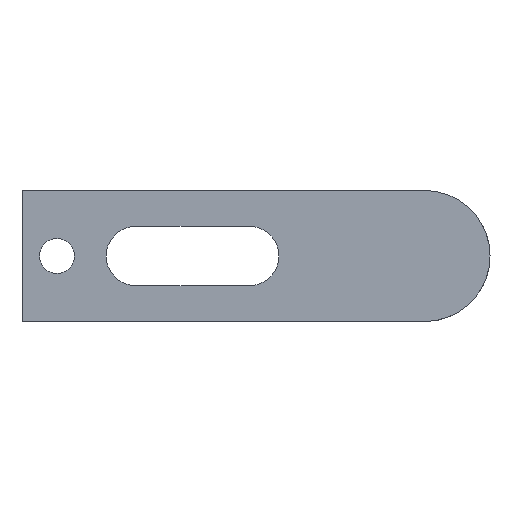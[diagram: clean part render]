
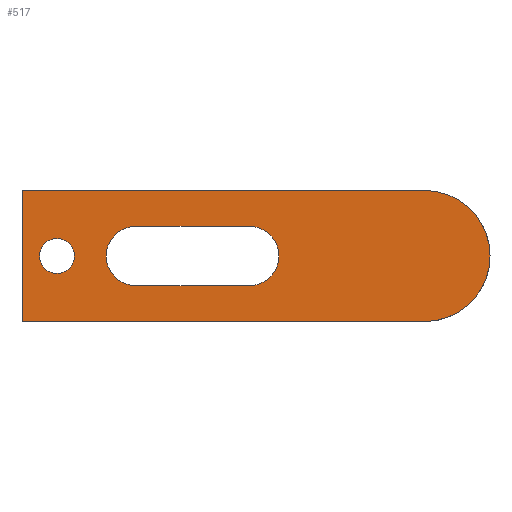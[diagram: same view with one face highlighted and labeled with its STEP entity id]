
A CAD part, front view. The second image highlights one B-rep face of the part: STEP entity #517.
In plain terms, the highlighted planar face has unit normal (0, -1, 0).
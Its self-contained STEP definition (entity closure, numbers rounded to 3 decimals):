
#290=CARTESIAN_POINT('Vertex',(-15.,0.,15.)) ;
#293=CARTESIAN_POINT('Axis2P3D Location',(-15.,0.,0.)) ;
#297=CARTESIAN_POINT('Vertex',(-15.,0.,-15.)) ;
#399=CARTESIAN_POINT('Line Origine',(-61.,0.,15.)) ;
#403=CARTESIAN_POINT('Vertex',(-107.,0.,15.)) ;
#426=CARTESIAN_POINT('Axis2P3D Location',(-107.,0.,15.)) ;
#431=CARTESIAN_POINT('Line Origine',(-61.,0.,-15.)) ;
#435=CARTESIAN_POINT('Vertex',(-107.,0.,-15.)) ;
#438=CARTESIAN_POINT('Line Origine',(-107.,0.,0.)) ;
#449=CARTESIAN_POINT('Axis2P3D Location',(-99.,0.,0.)) ;
#453=CARTESIAN_POINT('Vertex',(-95.,0.,0.)) ;
#455=CARTESIAN_POINT('Vertex',(-99.,0.,-4.)) ;
#458=CARTESIAN_POINT('Axis2P3D Location',(-99.,0.,0.)) ;
#462=CARTESIAN_POINT('Vertex',(-103.,0.,0.)) ;
#465=CARTESIAN_POINT('Axis2P3D Location',(-99.,0.,0.)) ;
#469=CARTESIAN_POINT('Vertex',(-99.,0.,4.)) ;
#472=CARTESIAN_POINT('Axis2P3D Location',(-99.,0.,0.)) ;
#483=CARTESIAN_POINT('Line Origine',(-68.,0.,-6.75)) ;
#487=CARTESIAN_POINT('Vertex',(-55.,0.,-6.75)) ;
#489=CARTESIAN_POINT('Vertex',(-81.,0.,-6.75)) ;
#492=CARTESIAN_POINT('Axis2P3D Location',(-81.,0.,0.)) ;
#496=CARTESIAN_POINT('Vertex',(-81.,0.,6.75)) ;
#499=CARTESIAN_POINT('Line Origine',(-68.,0.,6.75)) ;
#503=CARTESIAN_POINT('Vertex',(-55.,0.,6.75)) ;
#506=CARTESIAN_POINT('Axis2P3D Location',(-55.,0.,0.)) ;
#294=DIRECTION('Axis2P3D Direction',(0.,1.,0.)) ;
#400=DIRECTION('Vector Direction',(1.,0.,0.)) ;
#427=DIRECTION('Axis2P3D Direction',(0.,1.,0.)) ;
#428=DIRECTION('Axis2P3D XDirection',(0.,-0.,1.)) ;
#432=DIRECTION('Vector Direction',(1.,0.,0.)) ;
#439=DIRECTION('Vector Direction',(0.,0.,-1.)) ;
#450=DIRECTION('Axis2P3D Direction',(0.,1.,0.)) ;
#459=DIRECTION('Axis2P3D Direction',(0.,1.,0.)) ;
#466=DIRECTION('Axis2P3D Direction',(0.,1.,0.)) ;
#473=DIRECTION('Axis2P3D Direction',(0.,1.,0.)) ;
#484=DIRECTION('Vector Direction',(-1.,0.,0.)) ;
#493=DIRECTION('Axis2P3D Direction',(0.,1.,0.)) ;
#500=DIRECTION('Vector Direction',(1.,0.,0.)) ;
#507=DIRECTION('Axis2P3D Direction',(0.,1.,0.)) ;
#295=AXIS2_PLACEMENT_3D('Circle Axis2P3D',#293,#294,$) ;
#429=AXIS2_PLACEMENT_3D('Plane Axis2P3D',#426,#427,#428) ;
#451=AXIS2_PLACEMENT_3D('Circle Axis2P3D',#449,#450,$) ;
#460=AXIS2_PLACEMENT_3D('Circle Axis2P3D',#458,#459,$) ;
#467=AXIS2_PLACEMENT_3D('Circle Axis2P3D',#465,#466,$) ;
#474=AXIS2_PLACEMENT_3D('Circle Axis2P3D',#472,#473,$) ;
#494=AXIS2_PLACEMENT_3D('Circle Axis2P3D',#492,#493,$) ;
#508=AXIS2_PLACEMENT_3D('Circle Axis2P3D',#506,#507,$) ;
#444=ORIENTED_EDGE('',*,*,#437,.T.) ;
#445=ORIENTED_EDGE('',*,*,#299,.F.) ;
#446=ORIENTED_EDGE('',*,*,#405,.F.) ;
#447=ORIENTED_EDGE('',*,*,#442,.T.) ;
#478=ORIENTED_EDGE('',*,*,#457,.T.) ;
#479=ORIENTED_EDGE('',*,*,#464,.T.) ;
#480=ORIENTED_EDGE('',*,*,#471,.T.) ;
#481=ORIENTED_EDGE('',*,*,#476,.T.) ;
#512=ORIENTED_EDGE('',*,*,#491,.T.) ;
#513=ORIENTED_EDGE('',*,*,#498,.T.) ;
#514=ORIENTED_EDGE('',*,*,#505,.T.) ;
#515=ORIENTED_EDGE('',*,*,#510,.T.) ;
#482=FACE_BOUND('',#477,.T.) ;
#516=FACE_BOUND('',#511,.T.) ;
#401=VECTOR('Line Direction',#400,1.) ;
#433=VECTOR('Line Direction',#432,1.) ;
#440=VECTOR('Line Direction',#439,1.) ;
#485=VECTOR('Line Direction',#484,1.) ;
#501=VECTOR('Line Direction',#500,1.) ;
#517=ADVANCED_FACE('702-4',(#448,#482,#516),#430,.F.) ;
#296=CIRCLE('generated circle',#295,15.) ;
#452=CIRCLE('generated circle',#451,4.) ;
#461=CIRCLE('generated circle',#460,4.) ;
#468=CIRCLE('generated circle',#467,4.) ;
#475=CIRCLE('generated circle',#474,4.) ;
#495=CIRCLE('generated circle',#494,6.75) ;
#509=CIRCLE('generated circle',#508,6.75) ;
#299=EDGE_CURVE('',#291,#298,#296,.T.) ;
#405=EDGE_CURVE('',#404,#291,#402,.T.) ;
#437=EDGE_CURVE('',#436,#298,#434,.T.) ;
#442=EDGE_CURVE('',#404,#436,#441,.T.) ;
#457=EDGE_CURVE('',#454,#456,#452,.T.) ;
#464=EDGE_CURVE('',#456,#463,#461,.T.) ;
#471=EDGE_CURVE('',#463,#470,#468,.T.) ;
#476=EDGE_CURVE('',#470,#454,#475,.T.) ;
#491=EDGE_CURVE('',#488,#490,#486,.T.) ;
#498=EDGE_CURVE('',#490,#497,#495,.T.) ;
#505=EDGE_CURVE('',#497,#504,#502,.T.) ;
#510=EDGE_CURVE('',#504,#488,#509,.T.) ;
#443=EDGE_LOOP('',(#444,#445,#446,#447)) ;
#477=EDGE_LOOP('',(#478,#479,#480,#481)) ;
#511=EDGE_LOOP('',(#512,#513,#514,#515)) ;
#448=FACE_OUTER_BOUND('',#443,.T.) ;
#402=LINE('Line',#399,#401) ;
#434=LINE('Line',#431,#433) ;
#441=LINE('Line',#438,#440) ;
#486=LINE('Line',#483,#485) ;
#502=LINE('Line',#499,#501) ;
#430=PLANE('Plane',#429) ;
#291=VERTEX_POINT('',#290) ;
#298=VERTEX_POINT('',#297) ;
#404=VERTEX_POINT('',#403) ;
#436=VERTEX_POINT('',#435) ;
#454=VERTEX_POINT('',#453) ;
#456=VERTEX_POINT('',#455) ;
#463=VERTEX_POINT('',#462) ;
#470=VERTEX_POINT('',#469) ;
#488=VERTEX_POINT('',#487) ;
#490=VERTEX_POINT('',#489) ;
#497=VERTEX_POINT('',#496) ;
#504=VERTEX_POINT('',#503) ;
